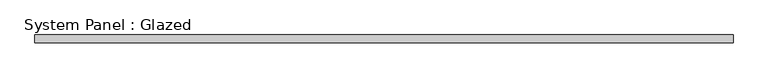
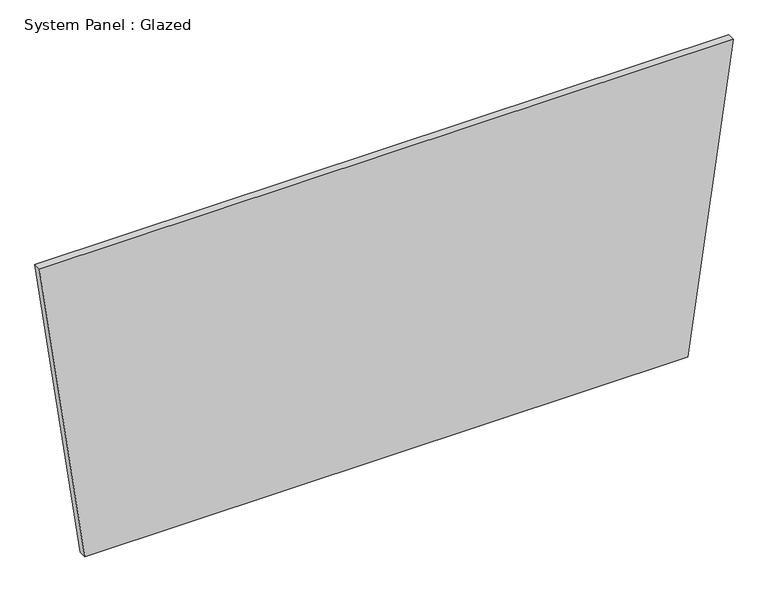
"""IFC4 building model written with IfcOpenShell, lengths in millimetres: plate geometry, System Panel : Glazed."""

from ifc_helpers import new_model, si_unit, frame, origin, place, context, project, spatial, polyline, outline, extrude, source, transform, mapped, element, save


def system_panel_glazed_f170e29b(model_context):
    return source(origin(), model_context, "Body", "SweptSolid", [
        extrude(outline(polyline([(0.0, -993.5335193), (0.0, 993.5335193), (1056.2447739, 1143.2306051), (1056.2447739, -1143.2306051), (0.0, -993.5335193)])), frame((0.0, -44.45, 0.0), z_axis=(0.0, 1.0, 0.0), x_axis=(0.0, 0.0, 1.0)), (0.0, 0.0, 1.0), 25.4),
    ])


if __name__ == "__main__":
    model = new_model("IFC4")
    model_context = context("Model", 3, world=origin())
    ifc_project = project(units=[si_unit("LENGTHUNIT", "METRE", prefix="MILLI")], contexts=[model_context])
    site = spatial("IfcSite", under=ifc_project)
    building = spatial("IfcBuilding", under=site)
    placement = place(None, origin())
    system_panel_glazed_shape = system_panel_glazed_f170e29b(model_context)
    element("IfcPlate", 1, ObjectType="System Panel : Glazed", at=placement, inside=building, context=model_context, shape_type="MappedRepresentation", body=[
        mapped(system_panel_glazed_shape, transform((0.0, 0.0, 0.0), x_axis=(1.0, 0.0, 0.0), y_axis=(0.0, 1.0, 0.0), z_axis=(0.0, 0.0, 1.0))),
    ])
    save(model, "model.ifc")
